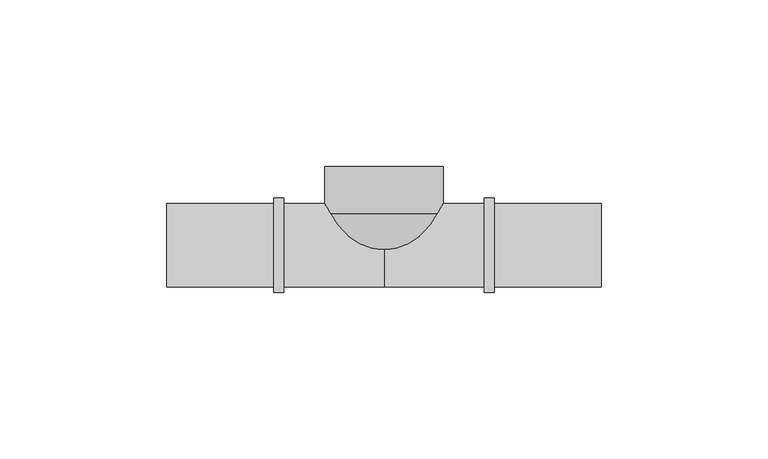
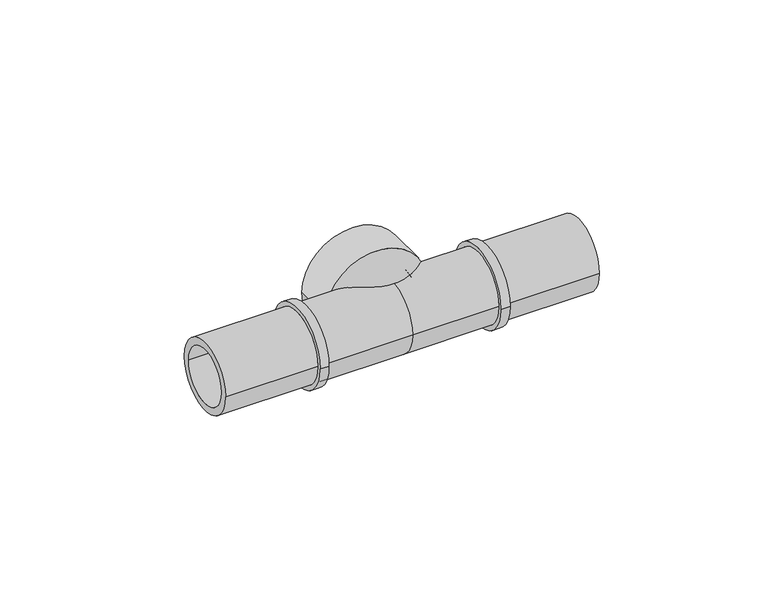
"""IFC4 building model written with IfcOpenShell, lengths in millimetres: pipe fitting geometry, FASTLOC_T-piece internal thread LX : FSL T thread LX PL."""

from ifc_helpers import new_model, si_unit, point, frame, origin, place, context, project, spatial, polyline, circle_curve, ellipse_curve, trimmed, source, transform, mapped, element, save
from ifc_brep_helpers import plane_surface, cylinder_surface, revolved_surface, advanced_brep


def pipe_fitting_c9032ad2(model_context):
    return source(origin(), model_context, "Body", "AdvancedBrep", [
        advanced_brep(
        [(5.5, -3.3401923, 0.0), (-5.5, -3.3401923, 0.0), (-17.75, 9.4, 0.0), (17.75, 9.4, 0.0), (5.5, 1.9166852, 0.0), (-5.5, 1.9166852, 0.0), (12.5, 9.4, 0.0), (-12.5, 9.4, 0.0), (12.5, 23.5, 0.0), (-12.5, 23.5, 0.0), (-17.75, 23.5, 0.0), (17.75, 23.5, 0.0)],
        [
            (0, 1, circle_curve(frame((0.0, -3.3401923, 0.0), z_axis=(0.0, 1.0, 0.0), x_axis=(-1.0, 0.0, 0.0)), 5.5)),
            (1, 2, circle_curve(frame((-5.0, 9.4, 0.0), z_axis=(0.0, 0.0, -1.0), x_axis=(0.0, 1.0, 0.0)), 12.75)),
            (2, 3, circle_curve(frame((0.0, 9.4, 0.0), z_axis=(0.0, -1.0, 0.0), x_axis=(-1.0, 0.0, 0.0)), 17.75)),
            (3, 0, circle_curve(frame((5.0, 9.4, 0.0), z_axis=(0.0, 0.0, -1.0), x_axis=(0.0, 1.0, 0.0)), 12.75)),
            (4, 5, circle_curve(frame((0.0, 1.9166852, 0.0), z_axis=(0.0, 1.0, 0.0), x_axis=(-1.0, 0.0, 0.0)), 5.5)),
            (5, 1),
            (0, 4),
            (6, 7, circle_curve(frame((0.0, 9.4, 0.0), z_axis=(0.0, 1.0, 0.0), x_axis=(-1.0, 0.0, 0.0)), 12.5)),
            (7, 5, circle_curve(frame((-5.0, 9.4, 0.0), z_axis=(0.0, 0.0, 1.0), x_axis=(0.0, 1.0, 0.0)), 7.5)),
            (4, 6, circle_curve(frame((5.0, 9.4, 0.0), z_axis=(0.0, 0.0, 1.0), x_axis=(0.0, 1.0, 0.0)), 7.5)),
            (8, 9, circle_curve(frame((0.0, 23.5, 0.0), z_axis=(0.0, 1.0, 0.0), x_axis=(-1.0, 0.0, 0.0)), 12.5)),
            (9, 7),
            (6, 8),
            (2, 10),
            (10, 11, circle_curve(frame((0.0, 23.5, 0.0), z_axis=(0.0, -1.0, 0.0), x_axis=(-1.0, 0.0, 0.0)), 17.75)),
            (11, 3),
            (1, 0, circle_curve(frame((0.0, -3.3401923, 0.0), z_axis=(0.0, 1.0, 0.0), x_axis=(1.0, 0.0, 0.0)), 5.5)),
            (3, 2, circle_curve(frame((0.0, 9.4, 0.0), z_axis=(0.0, -1.0, 0.0), x_axis=(1.0, 0.0, 0.0)), 17.75)),
            (5, 4, circle_curve(frame((0.0, 1.9166852, 0.0), z_axis=(0.0, 1.0, 0.0), x_axis=(1.0, 0.0, 0.0)), 5.5)),
            (7, 6, circle_curve(frame((0.0, 9.4, 0.0), z_axis=(0.0, 1.0, 0.0), x_axis=(1.0, 0.0, 0.0)), 12.5)),
            (9, 8, circle_curve(frame((0.0, 23.5, 0.0), z_axis=(0.0, 1.0, 0.0), x_axis=(1.0, 0.0, 0.0)), 12.5)),
            (10, 11, circle_curve(frame((0.0, 23.5, 0.0), z_axis=(0.0, 1.0, 0.0), x_axis=(1.0, 0.0, 0.0)), 17.75)),
        ],
        [
            revolved_surface(trimmed(ellipse_curve(frame((-5.0, 9.4, 0.0), z_axis=(0.0, 0.0, 1.0), x_axis=(0.0, 1.0, 0.0)), 12.75, 12.75), [point((-17.75, 9.4, 0.0))], [point((-5.5, -3.3401923, 0.0))], True, "CARTESIAN"), (0.0, 0.0, 0.0), (0.0, -1.0, 0.0)),
            revolved_surface(polyline([(-5.5, -3.3401923, 0.0), (-5.5, 1.9166852, 0.0)]), (0.0, 0.0, 0.0), (0.0, -1.0, 0.0)),
            revolved_surface(trimmed(ellipse_curve(frame((-5.0, 9.4, 0.0), z_axis=(0.0, 0.0, -1.0), x_axis=(0.0, 1.0, 0.0)), 7.5, 7.5), [point((-5.5, 1.9166852, 0.0))], [point((-12.5, 9.4, 0.0))], True, "CARTESIAN"), (0.0, 0.0, 0.0), (0.0, -1.0, 0.0)),
            revolved_surface(polyline([(-12.5, 9.4, 0.0), (-12.5, 23.5, 0.0)]), (0.0, 0.0, 0.0), (0.0, -1.0, 0.0)),
            cylinder_surface(frame((0.0, 0.0, 0.0), z_axis=(0.0, -1.0, 0.0), x_axis=(-1.0, 0.0, 0.0)), 17.75),
            revolved_surface(trimmed(ellipse_curve(frame((5.0, 9.4, 0.0), z_axis=(0.0, 0.0, -1.0), x_axis=(0.0, 1.0, 0.0)), 12.75, 12.75), [point((17.75, 9.4, 0.0))], [point((5.5, -3.3401923, 0.0))], True, "CARTESIAN"), (0.0, 0.0, 0.0), (0.0, -1.0, 0.0)),
            revolved_surface(polyline([(5.5, -3.3401923, 0.0), (5.5, 1.9166852, 0.0)]), (0.0, 0.0, 0.0), (0.0, -1.0, 0.0)),
            revolved_surface(trimmed(ellipse_curve(frame((5.0, 9.4, 0.0), z_axis=(0.0, 0.0, 1.0), x_axis=(0.0, 1.0, 0.0)), 7.5, 7.5), [point((5.5, 1.9166852, 0.0))], [point((12.5, 9.4, 0.0))], True, "CARTESIAN"), (0.0, 0.0, 0.0), (0.0, -1.0, 0.0)),
            revolved_surface(polyline([(12.5, 9.4, 0.0), (12.5, 23.5, 0.0)]), (0.0, 0.0, 0.0), (0.0, -1.0, 0.0)),
            plane_surface(frame((0.0, 23.5, 0.0), z_axis=(0.0, 1.0, 0.0), x_axis=(1.0, 0.0, 0.0))),
            cylinder_surface(frame((0.0, 0.0, 0.0), z_axis=(0.0, -1.0, 0.0), x_axis=(1.0, 0.0, 0.0)), 17.75),
        ],
        [
            (0, [[1, 2, 3, 4]]),
            (1, [[5, 6, -1, 7]]),
            (2, [[8, 9, -5, 10]]),
            (3, [[11, 12, -8, 13]]),
            (4, [[-3, 14, 15, 16]]),
            (5, [[17, -4, 18, -2]]),
            (6, [[19, -7, -17, -6]]),
            (7, [[20, -10, -19, -9]]),
            (8, [[21, -13, -20, -12]]),
            (9, [[22, -15], [-21, -11]]),
            (10, [[-18, -16, -22, -14]]),
        ],
    ),
        advanced_brep(
        [(33.0, 14.1, 0.0), (33.0, -14.1, 0.0), (30.0, -14.1, 0.0), (30.0, 14.1, 0.0), (65.0, 12.5, 0.0), (65.0, -12.5, 0.0), (33.0, -12.5, 0.0), (33.0, 12.5, 0.0), (-65.0, 9.85, 0.0), (-65.0, -9.85, 0.0), (65.0, -9.85, 0.0), (65.0, 9.85, 0.0), (-33.0, 12.5, 0.0), (-33.0, -12.5, 0.0), (-65.0, -12.5, 0.0), (-65.0, 12.5, 0.0), (-30.0, 14.1, 0.0), (-30.0, -14.1, 0.0), (-33.0, -14.1, 0.0), (-33.0, 14.1, 0.0), (0.0, 12.5, 0.0), (0.0, -12.5, 0.0), (-30.0, -12.5, 0.0), (-30.0, 12.5, 0.0), (30.0, 12.5, 0.0), (30.0, -12.5, 0.0)],
        [
            (0, 1, circle_curve(frame((33.0, 0.0, 0.0), z_axis=(-1.0, 0.0, 0.0), x_axis=(0.0, -1.0, 0.0)), 14.1)),
            (1, 2),
            (2, 3, circle_curve(frame((30.0, 0.0, 0.0), z_axis=(1.0, 0.0, 0.0), x_axis=(0.0, -1.0, 0.0)), 14.1)),
            (3, 0),
            (4, 5, circle_curve(frame((65.0, 0.0, 0.0), z_axis=(-1.0, 0.0, 0.0), x_axis=(0.0, -1.0, 0.0)), 12.5)),
            (5, 6),
            (6, 7, circle_curve(frame((33.0, 0.0, 0.0), z_axis=(1.0, 0.0, 0.0), x_axis=(0.0, -1.0, 0.0)), 12.5)),
            (7, 4),
            (8, 9, circle_curve(frame((-65.0, 0.0, 0.0), z_axis=(-1.0, 0.0, 0.0), x_axis=(0.0, -1.0, 0.0)), 9.85)),
            (9, 10),
            (10, 11, circle_curve(frame((65.0, 0.0, 0.0), z_axis=(1.0, 0.0, 0.0), x_axis=(0.0, -1.0, 0.0)), 9.85)),
            (11, 8),
            (12, 13, circle_curve(frame((-33.0, 0.0, 0.0), z_axis=(-1.0, 0.0, 0.0), x_axis=(0.0, -1.0, 0.0)), 12.5)),
            (13, 14),
            (14, 15, circle_curve(frame((-65.0, 0.0, 0.0), z_axis=(1.0, 0.0, 0.0), x_axis=(0.0, -1.0, 0.0)), 12.5)),
            (15, 12),
            (16, 17, circle_curve(frame((-30.0, 0.0, 0.0), z_axis=(-1.0, 0.0, 0.0), x_axis=(0.0, -1.0, 0.0)), 14.1)),
            (17, 18),
            (18, 19, circle_curve(frame((-33.0, 0.0, 0.0), z_axis=(1.0, 0.0, 0.0), x_axis=(0.0, -1.0, 0.0)), 14.1)),
            (19, 16),
            (20, 21, circle_curve(frame((0.0, 0.0, 0.0), z_axis=(-1.0, 0.0, 0.0), x_axis=(0.0, -1.0, 0.0)), 12.5)),
            (21, 22),
            (22, 23, circle_curve(frame((-30.0, 0.0, 0.0), z_axis=(1.0, 0.0, 0.0), x_axis=(0.0, -1.0, 0.0)), 12.5)),
            (23, 20),
            (24, 25, circle_curve(frame((30.0, 0.0, 0.0), z_axis=(-1.0, 0.0, 0.0), x_axis=(0.0, -1.0, 0.0)), 12.5)),
            (25, 21),
            (20, 24),
            (1, 0, circle_curve(frame((33.0, 0.0, 0.0), z_axis=(-1.0, 0.0, 0.0), x_axis=(0.0, 1.0, 0.0)), 14.1)),
            (3, 2, circle_curve(frame((30.0, 0.0, 0.0), z_axis=(1.0, 0.0, 0.0), x_axis=(0.0, 1.0, 0.0)), 14.1)),
            (6, 7, circle_curve(frame((33.0, 0.0, 0.0), z_axis=(-1.0, 0.0, 0.0), x_axis=(0.0, 1.0, 0.0)), 12.5)),
            (5, 4, circle_curve(frame((65.0, 0.0, 0.0), z_axis=(-1.0, 0.0, 0.0), x_axis=(0.0, 1.0, 0.0)), 12.5)),
            (10, 11, circle_curve(frame((65.0, 0.0, 0.0), z_axis=(-1.0, 0.0, 0.0), x_axis=(0.0, 1.0, 0.0)), 9.85)),
            (9, 8, circle_curve(frame((-65.0, 0.0, 0.0), z_axis=(-1.0, 0.0, 0.0), x_axis=(0.0, 1.0, 0.0)), 9.85)),
            (14, 15, circle_curve(frame((-65.0, 0.0, 0.0), z_axis=(-1.0, 0.0, 0.0), x_axis=(0.0, 1.0, 0.0)), 12.5)),
            (13, 12, circle_curve(frame((-33.0, 0.0, 0.0), z_axis=(-1.0, 0.0, 0.0), x_axis=(0.0, 1.0, 0.0)), 12.5)),
            (18, 19, circle_curve(frame((-33.0, 0.0, 0.0), z_axis=(-1.0, 0.0, 0.0), x_axis=(0.0, 1.0, 0.0)), 14.1)),
            (17, 16, circle_curve(frame((-30.0, 0.0, 0.0), z_axis=(-1.0, 0.0, 0.0), x_axis=(0.0, 1.0, 0.0)), 14.1)),
            (22, 23, circle_curve(frame((-30.0, 0.0, 0.0), z_axis=(-1.0, 0.0, 0.0), x_axis=(0.0, 1.0, 0.0)), 12.5)),
            (21, 20, circle_curve(frame((0.0, 0.0, 0.0), z_axis=(-1.0, 0.0, 0.0), x_axis=(0.0, 1.0, 0.0)), 12.5)),
            (25, 24, circle_curve(frame((30.0, 0.0, 0.0), z_axis=(-1.0, 0.0, 0.0), x_axis=(0.0, 1.0, 0.0)), 12.5)),
        ],
        [
            cylinder_surface(frame((0.0, 0.0, 0.0), z_axis=(1.0, 0.0, 0.0), x_axis=(0.0, -1.0, 0.0)), 14.1),
            cylinder_surface(frame((0.0, 0.0, 0.0), z_axis=(1.0, 0.0, 0.0), x_axis=(0.0, -1.0, 0.0)), 12.5),
            revolved_surface(polyline([(65.0, -9.85, 0.0), (-65.0, -9.85, 0.0)]), (0.0, 0.0, 0.0), (1.0, 0.0, 0.0)),
            cylinder_surface(frame((0.0, 0.0, 0.0), z_axis=(1.0, 0.0, 0.0), x_axis=(0.0, 1.0, 0.0)), 14.1),
            plane_surface(frame((33.0, 0.0, 0.0), z_axis=(1.0, 0.0, 0.0), x_axis=(0.0, 1.0, 0.0))),
            cylinder_surface(frame((0.0, 0.0, 0.0), z_axis=(1.0, 0.0, 0.0), x_axis=(0.0, 1.0, 0.0)), 12.5),
            plane_surface(frame((65.0, 0.0, 0.0), z_axis=(1.0, 0.0, 0.0), x_axis=(0.0, 1.0, 0.0))),
            revolved_surface(polyline([(65.0, 9.85, 0.0), (-65.0, 9.85, 0.0)]), (0.0, 0.0, 0.0), (1.0, 0.0, 0.0)),
            plane_surface(frame((-65.0, 0.0, 0.0), z_axis=(-1.0, 0.0, 0.0), x_axis=(0.0, 1.0, 0.0))),
            plane_surface(frame((-33.0, 0.0, 0.0), z_axis=(-1.0, 0.0, 0.0), x_axis=(0.0, 1.0, 0.0))),
            plane_surface(frame((-30.0, 0.0, 0.0), z_axis=(1.0, 0.0, 0.0), x_axis=(0.0, 1.0, 0.0))),
            plane_surface(frame((30.0, 0.0, 0.0), z_axis=(-1.0, 0.0, 0.0), x_axis=(0.0, 1.0, 0.0))),
        ],
        [
            (0, [[1, 2, 3, 4]]),
            (1, [[5, 6, 7, 8]]),
            (2, [[9, 10, 11, 12]]),
            (1, [[13, 14, 15, 16]]),
            (0, [[17, 18, 19, 20]]),
            (1, [[21, 22, 23, 24]]),
            (1, [[25, 26, -21, 27]]),
            (3, [[28, -4, 29, -2]]),
            (4, [[-28, -1], [30, -7]]),
            (5, [[31, -8, -30, -6]]),
            (6, [[-31, -5], [32, -11]]),
            (7, [[33, -12, -32, -10]]),
            (8, [[34, -15], [-33, -9]]),
            (5, [[35, -16, -34, -14]]),
            (9, [[36, -19], [-35, -13]]),
            (3, [[37, -20, -36, -18]]),
            (10, [[-37, -17], [38, -23]]),
            (5, [[39, -24, -38, -22]]),
            (5, [[40, -27, -39, -26]]),
            (11, [[-29, -3], [-40, -25]]),
        ],
    ),
    ])


if __name__ == "__main__":
    model = new_model("IFC4")
    model_context = context("Model", 3, world=origin())
    ifc_project = project(units=[si_unit("LENGTHUNIT", "METRE", prefix="MILLI")], contexts=[model_context])
    site = spatial("IfcSite", under=ifc_project)
    building = spatial("IfcBuilding", under=site)
    placement = place(None, origin())
    pipe_fitting_shape = pipe_fitting_c9032ad2(model_context)
    element("IfcPipeFitting", 1, ObjectType="FASTLOC_T-piece internal thread LX : FSL T thread LX PL", at=placement, inside=building, context=model_context, shape_type="MappedRepresentation", body=[
        mapped(pipe_fitting_shape, transform((0.0, 0.0, 0.0), x_axis=(1.0, 0.0, 0.0), y_axis=(0.0, 1.0, 0.0), z_axis=(0.0, 0.0, 1.0))),
    ])
    save(model, "model.ifc")
